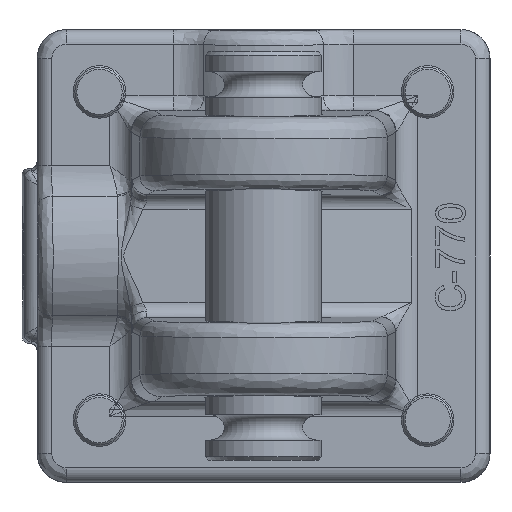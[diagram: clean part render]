
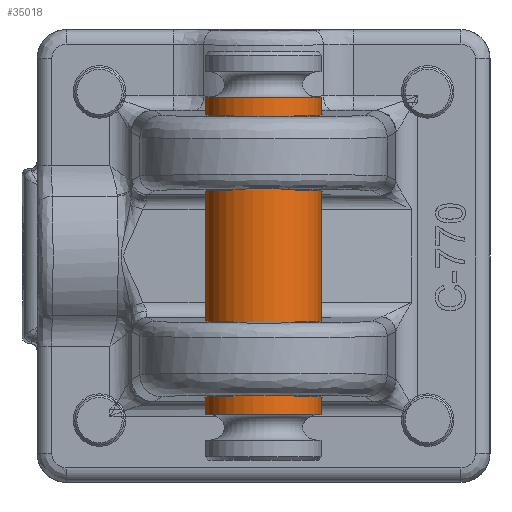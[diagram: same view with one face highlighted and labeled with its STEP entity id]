
A CAD part, left-side view. The second image highlights one B-rep face of the part: STEP entity #35018.
In plain terms, the highlighted cylindrical face has radius 12.7 mm (diameter 25.4 mm), a full revolution.
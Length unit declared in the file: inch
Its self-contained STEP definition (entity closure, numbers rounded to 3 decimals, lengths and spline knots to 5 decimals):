
#34914=CARTESIAN_POINT('',(-1.35975,0.5,0.));
#34915=VERTEX_POINT('',#34914);
#34916=CARTESIAN_POINT('',(-1.35975,0.0,0.0));
#34917=DIRECTION('',(1.0,0.0,0.0));
#34918=DIRECTION('',(0.0,-1.0,0.0));
#34919=AXIS2_PLACEMENT_3D('',#34916,#34917,#34918);
#34920=CIRCLE('',#34919,0.5);
#34921=EDGE_CURVE('',#34915,#34915,#34920,.T.);
#34946=CARTESIAN_POINT('',(1.35975,0.5,0.));
#34947=VERTEX_POINT('',#34946);
#34948=CARTESIAN_POINT('',(1.35975,0.0,0.0));
#34949=DIRECTION('',(-1.0,0.0,0.0));
#34950=DIRECTION('',(0.0,-1.0,0.0));
#34951=AXIS2_PLACEMENT_3D('',#34948,#34949,#34950);
#34952=CIRCLE('',#34951,0.5);
#34953=EDGE_CURVE('',#34947,#34947,#34952,.T.);
#35007=CARTESIAN_POINT('',(0.0,0.0,0.0));
#35008=DIRECTION('',(1.0,0.0,0.0));
#35009=DIRECTION('',(0.0,-1.0,0.0));
#35010=AXIS2_PLACEMENT_3D('',#35007,#35008,#35009);
#35011=CYLINDRICAL_SURFACE('',#35010,0.5);
#35012=ORIENTED_EDGE('',*,*,#34921,.T.);
#35013=EDGE_LOOP('',(#35012));
#35014=FACE_OUTER_BOUND('',#35013,.T.);
#35015=ORIENTED_EDGE('',*,*,#34953,.T.);
#35016=EDGE_LOOP('',(#35015));
#35017=FACE_BOUND('',#35016,.T.);
#35018=ADVANCED_FACE('',(#35014,#35017),#35011,.T.);
